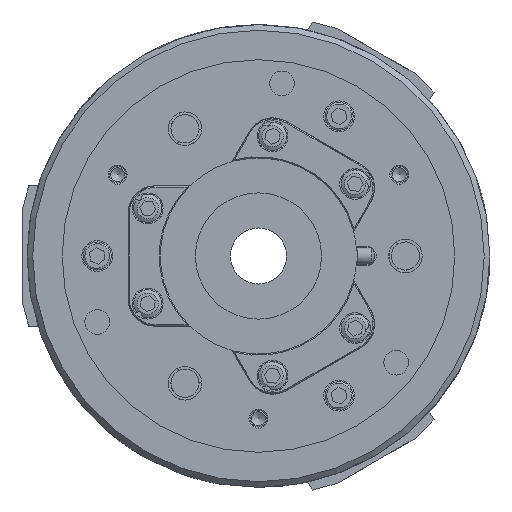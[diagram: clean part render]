
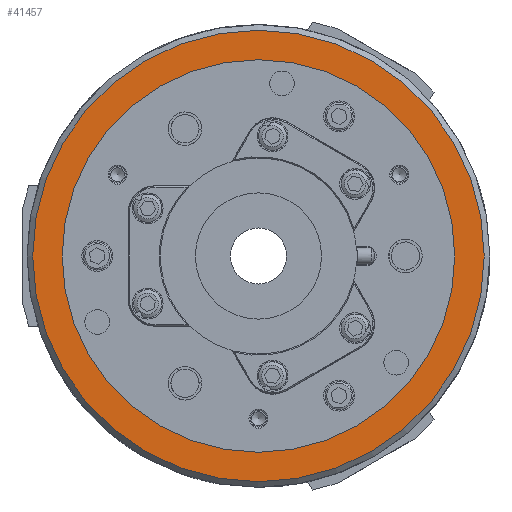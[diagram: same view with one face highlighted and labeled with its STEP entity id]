
A CAD part, left-side view. The second image highlights one B-rep face of the part: STEP entity #41457.
In plain terms, the highlighted planar face has unit normal (-1, 0, 0).
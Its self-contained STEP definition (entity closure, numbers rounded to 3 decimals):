
#4365 = DIRECTION ( 'NONE',  ( 0., 0., -1. ) ) ;
#4514 = DIRECTION ( 'NONE',  ( 0., 0., -1. ) ) ;
#8135 = DIRECTION ( 'NONE',  ( 0., 0., 1. ) ) ;
#10928 = AXIS2_PLACEMENT_3D ( 'NONE', #70085, #54314, #4365 ) ;
#12525 = EDGE_CURVE ( 'NONE', #48558, #48558, #21090, .T. ) ;
#13336 = CARTESIAN_POINT ( 'NONE',  ( -87., 0., -80.5 ) ) ;
#13372 = VERTEX_POINT ( 'NONE', #13336 ) ;
#13617 = PLANE ( 'NONE',  #36538 ) ;
#16768 = FACE_BOUND ( 'NONE', #68548, .T. ) ;
#21090 = CIRCLE ( 'NONE', #10928, 70. ) ;
#22736 = EDGE_LOOP ( 'NONE', ( #35868 ) ) ;
#27960 = EDGE_CURVE ( 'NONE', #13372, #13372, #69784, .T. ) ;
#35868 = ORIENTED_EDGE ( 'NONE', *, *, #27960, .F. ) ;
#36538 = AXIS2_PLACEMENT_3D ( 'NONE', #63613, #63378, #8135 ) ;
#40892 = CARTESIAN_POINT ( 'NONE',  ( -87., 0., -70. ) ) ;
#41457 = ADVANCED_FACE ( 'NONE', ( #16768, #62964 ), #13617, .T. ) ;
#48558 = VERTEX_POINT ( 'NONE', #40892 ) ;
#53543 = CARTESIAN_POINT ( 'NONE',  ( -87., 0., 0. ) ) ;
#54314 = DIRECTION ( 'NONE',  ( 1., 0., 0. ) ) ;
#57564 = AXIS2_PLACEMENT_3D ( 'NONE', #53543, #64524, #4514 ) ;
#62964 = FACE_OUTER_BOUND ( 'NONE', #22736, .T. ) ;
#63101 = ORIENTED_EDGE ( 'NONE', *, *, #12525, .T. ) ;
#63378 = DIRECTION ( 'NONE',  ( -1., 0., 0. ) ) ;
#63613 = CARTESIAN_POINT ( 'NONE',  ( -87., 40.25, -69.715 ) ) ;
#64524 = DIRECTION ( 'NONE',  ( 1., 0., 0. ) ) ;
#68548 = EDGE_LOOP ( 'NONE', ( #63101 ) ) ;
#69784 = CIRCLE ( 'NONE', #57564, 80.5 ) ;
#70085 = CARTESIAN_POINT ( 'NONE',  ( -87., 0., 0. ) ) ;
